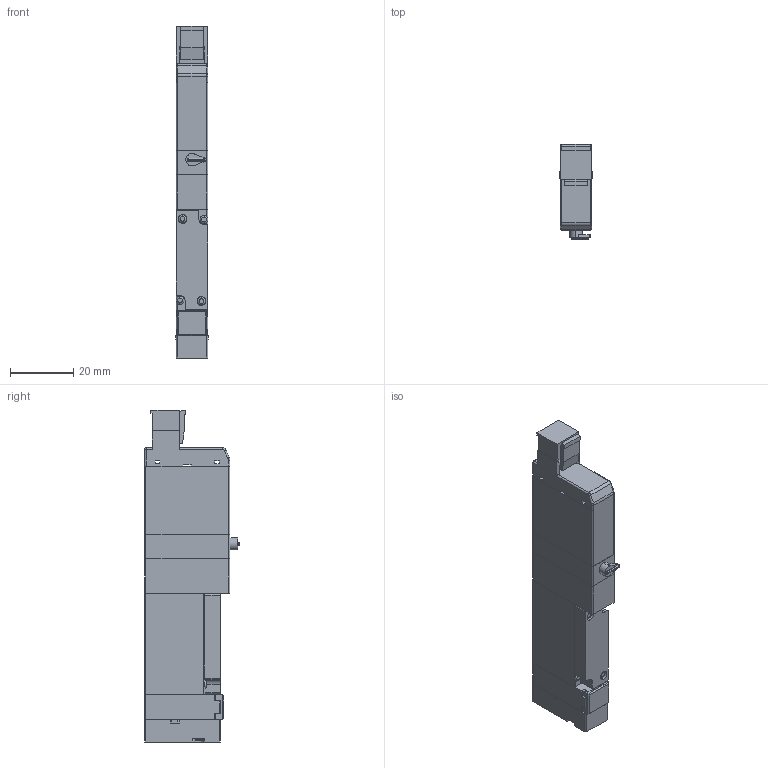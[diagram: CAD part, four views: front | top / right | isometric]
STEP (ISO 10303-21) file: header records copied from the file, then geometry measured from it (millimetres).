
FILE_DESCRIPTION( (''), '2;1');
FILE_NAME ('CVICAD02.13484.F10T1-R-A1-PS_5855.stp','2020-09-01T14:10:35',(''),(''),'spGate 12.6.6','','');
FILE_SCHEMA (('AUTOMOTIVE_DESIGN'));
Length unit declared in the file: millimetre
Products named in the file (8): Assembly; F10_Adptor; F10_Cap; F10_SwitchBlock1; F10T_Body; F_3PortBody-R; F_Connector-PS; F10_A1
Assembly tree (7 placements, depth 2):
  Assembly
    F10_Adptor
    F10_Cap
    F10_SwitchBlock1
    F10T_Body
    F_3PortBody-R
    F_Connector-PS
    F10_A1
Bounding box: 10.2 x 30 x 105 mm (x, y, z)
Volume: 24366.1 mm3; surface area: 11538 mm2
Topology: 7 solids, 7 shells, 327 faces, 852 edges, 548 vertices
Faces by surface type: plane 203, cylinder 98, bspline 20, sphere 6
Entity records: 17242 total; most frequent: CARTESIAN_POINT 2170, ORIENTED_EDGE 1692, DIRECTION 1685, COLOUR_RGB 1180, PRESENTATION_STYLE_ASSIGNMENT 1180, STYLED_ITEM 1180, EDGE_CURVE 846, DRAUGHTING_PRE_DEFINED_CURVE_FONT 846
